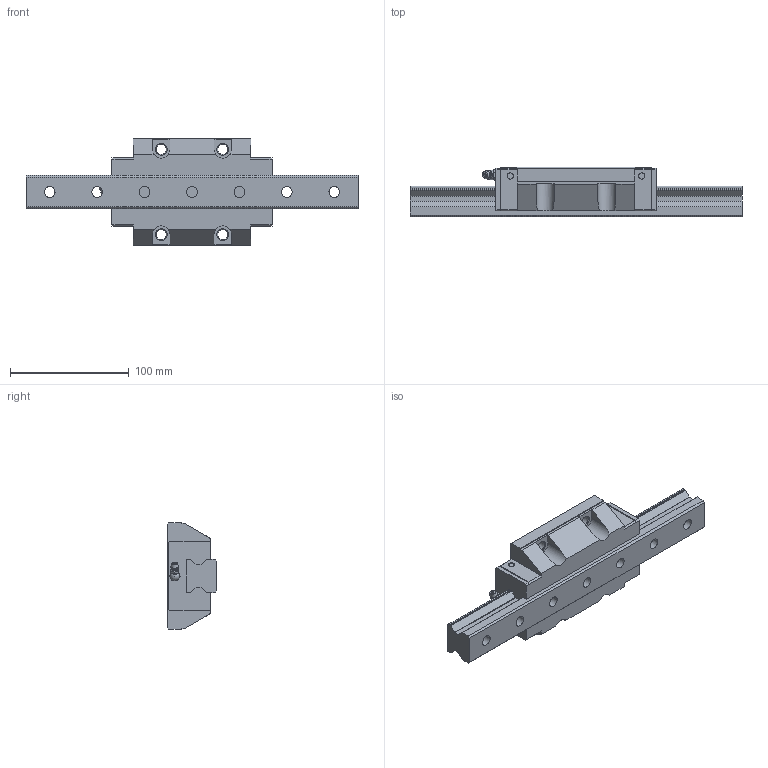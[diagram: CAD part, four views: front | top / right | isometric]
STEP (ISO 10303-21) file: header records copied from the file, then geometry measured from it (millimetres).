
FILE_DESCRIPTION(/* description */ ('STEP AP203'),/* implementation_level */ '2;1');
FILE_NAME(/* name */ 'SRG30XLC1SS-280LP_G20_0_B-M6F_72-5_0_0_0_1',/* time_stamp */ '2024-05-23T09:36:51+02:00',/* author */ ('License CC BY-ND 4.0'),/* organization */ ('CADENAS'),/* preprocessor_version */ 'ST-DEVELOPER v19.3',/* originating_system */ 'PARTsolutions',/* authorisation */ ' ');
FILE_SCHEMA (('CONFIG_CONTROL_DESIGN'));
Length unit declared in the file: millimetre
Products named in the file (4): SRG30XLC1SS-280LP_G20_0_B-M6F_72-5_0_0_0_1; SRG30XLC28020 Track; SRG30XLCSSB-M6F1 Slide25-65; SRG-B-M6F_grease_nipple_joint
Assembly tree (3 placements, depth 2):
  SRG30XLC1SS-280LP_G20_0_B-M6F_72-5_0_0_0_1
    SRG30XLC28020 Track
    SRG30XLCSSB-M6F1 Slide25-65
    SRG-B-M6F_grease_nipple_joint
Bounding box: 280 x 42 x 90 mm (x, y, z)
Volume: 449013.1 mm3; surface area: 84501.2 mm2
Topology: 3 solids, 3 shells, 231 faces, 604 edges, 395 vertices
Faces by surface type: plane 155, cylinder 46, cone 25, sphere 3, torus 2
Full cylindrical faces by diameter (mm): 4.917 x2, 5.2 x4, 6 x1, 8 x1, 8.5 x6, 9 x7, 10.2 x2, 14 x7
Entity records: 6839 total; most frequent: CARTESIAN_POINT 1250, DIRECTION 1114, ORIENTED_EDGE 1068, EDGE_CURVE 534, VERTEX_POINT 381, LINE 376, VECTOR 376, AXIS2_PLACEMENT_3D 369
